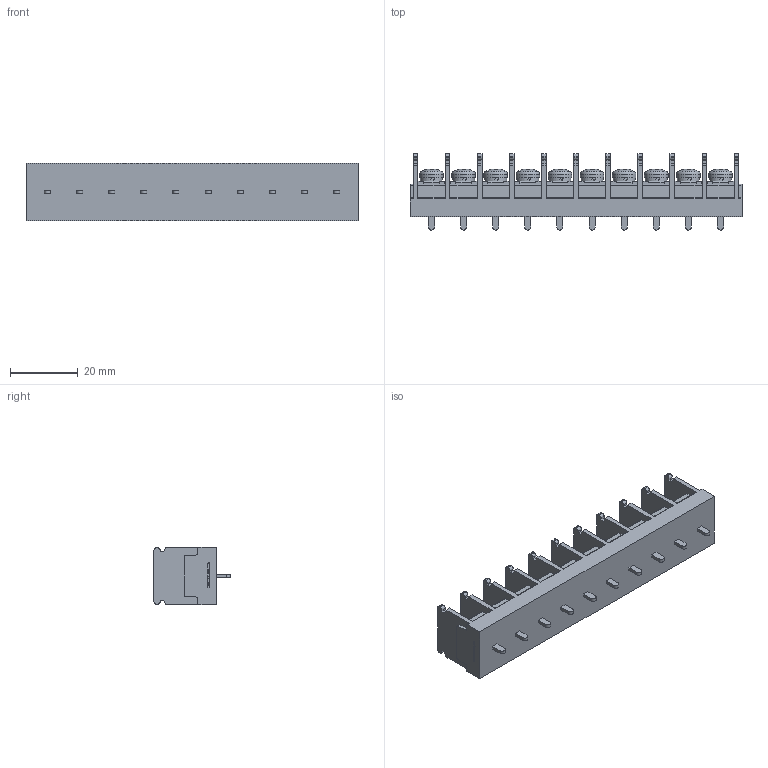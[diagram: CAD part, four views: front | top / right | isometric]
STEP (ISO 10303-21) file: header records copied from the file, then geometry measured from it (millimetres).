
FILE_DESCRIPTION(/* description */ ('Alibre Inc.'),/* implementation_level */ '2;1');
FILE_NAME(/* name */ 'export-A6F30912-463F-4FE6-A5FC-C610BF017620',/* time_stamp */ '2020-11-04T18:17:39+09:00',/* author */ (''),/* organization */ (''),/* preprocessor_version */ 'ST-DEVELOPER v17',/* originating_system */ 'Alibre',/* authorisation */ '');
FILE_SCHEMA (('CONFIG_CONTROL_DESIGN'));
Length unit declared in the file: millimetre
Bounding box: 98.2 x 22.5 x 17 mm (x, y, z)
Volume: 18065 mm3; surface area: 11816.2 mm2
Topology: 1 solids, 27 shells, 1226 faces, 3336 edges, 2214 vertices
Faces by surface type: plane 880, cylinder 162, bspline 104, cone 50, torus 20, sphere 10
Full cylindrical faces by diameter (mm): 4 x20, 6.5 x10, 7 x10
Entity records: 37054 total; most frequent: CARTESIAN_POINT 7813, ORIENTED_EDGE 6472, DIRECTION 4886, EDGE_CURVE 3236, VECTOR 2256, LINE 2256, VERTEX_POINT 2174, AXIS2_PLACEMENT_3D 1735
